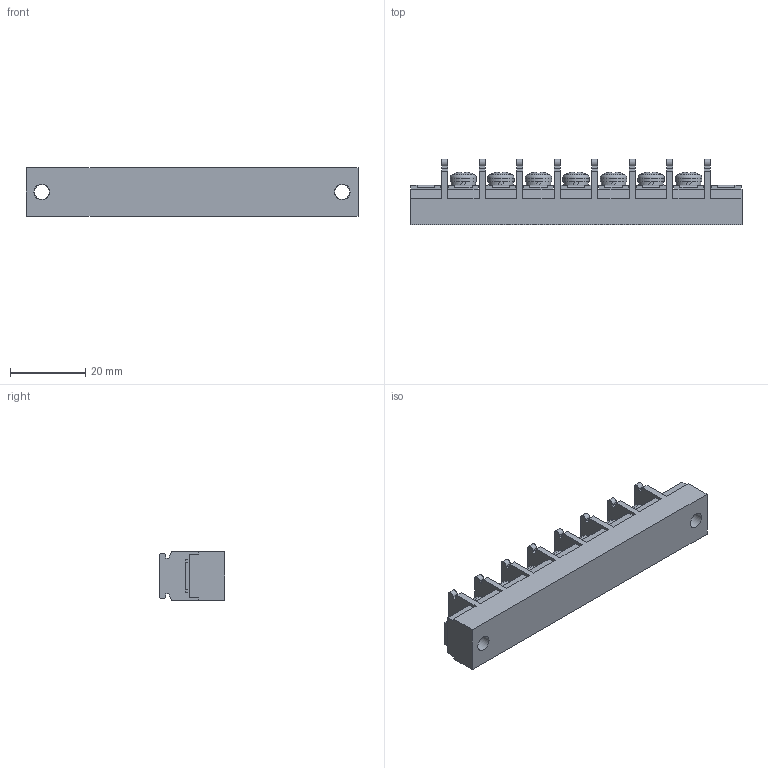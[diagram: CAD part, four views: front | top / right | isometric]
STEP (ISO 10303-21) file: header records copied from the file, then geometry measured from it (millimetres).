
FILE_DESCRIPTION(/* description */ ('Alibre Inc.'),/* implementation_level */ '2;1');
FILE_NAME(/* name */ 'export0',/* time_stamp */ '2015-10-17T18:44:01+09:00',/* author */ (''),/* organization */ (''),/* preprocessor_version */ 'ST-DEVELOPER v14',/* originating_system */ 'Alibre',/* authorisation */ '');
FILE_SCHEMA (('CONFIG_CONTROL_DESIGN'));
Length unit declared in the file: centimetre
Products named in the file (1): ID_1
Bounding box: 88.4 x 17.5 x 13 mm (x, y, z)
Volume: 12865.4 mm3; surface area: 7394.3 mm2
Topology: 1 solids, 17 shells, 846 faces, 2303 edges, 1529 vertices
Faces by surface type: plane 634, bspline 104, cylinder 59, cone 28, torus 14, sphere 7
Full cylindrical faces by diameter (mm): 4 x9, 4.2 x2, 6.5 x7, 7 x7
Entity records: 25820 total; most frequent: CARTESIAN_POINT 5762, ORIENTED_EDGE 4496, DIRECTION 3158, EDGE_CURVE 2248, VECTOR 1670, LINE 1670, VERTEX_POINT 1506, AXIS2_PLACEMENT_3D 1058
